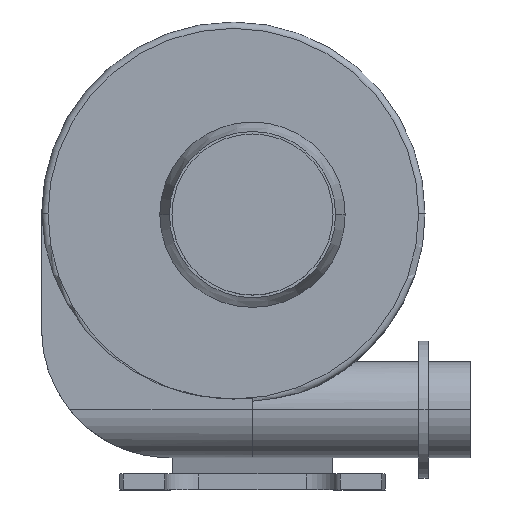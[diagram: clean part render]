
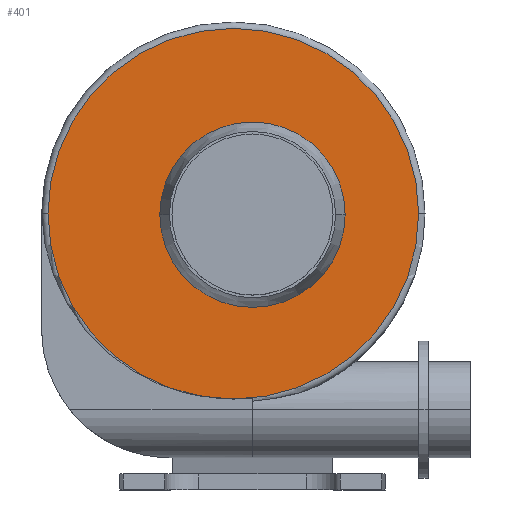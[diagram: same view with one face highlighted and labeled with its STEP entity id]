
A CAD part, top view. The second image highlights one B-rep face of the part: STEP entity #401.
In plain terms, the highlighted planar face has unit normal (0, 0, 1).
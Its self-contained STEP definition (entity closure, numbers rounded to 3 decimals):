
#172 = EDGE_CURVE ( 'NONE', #1209, #2668, #208, .T. ) ;
#184 = DIRECTION ( 'NONE',  ( 0., 0., 1. ) ) ;
#208 = CIRCLE ( 'NONE', #1748, 290.004 ) ;
#241 = DIRECTION ( 'NONE',  ( 0., 0., 1. ) ) ;
#286 = DIRECTION ( 'NONE',  ( 0., 0., 1. ) ) ;
#401 = ADVANCED_FACE ( 'NONE', ( #2529, #776 ), #2768, .T. ) ;
#716 = DIRECTION ( 'NONE',  ( 1., 0., 0. ) ) ;
#719 = DIRECTION ( 'NONE',  ( 0., 0., 1. ) ) ;
#740 = AXIS2_PLACEMENT_3D ( 'NONE', #1675, #286, #1908 ) ;
#776 = FACE_BOUND ( 'NONE', #2923, .T. ) ;
#962 = CARTESIAN_POINT ( 'NONE',  ( -320.004, 1.5, 75. ) ) ;
#1161 = AXIS2_PLACEMENT_3D ( 'NONE', #2097, #719, #2316 ) ;
#1171 = CARTESIAN_POINT ( 'NONE',  ( -30., 1.5, 75. ) ) ;
#1209 = VERTEX_POINT ( 'NONE', #962 ) ;
#1394 = VERTEX_POINT ( 'NONE', #1714 ) ;
#1538 = CARTESIAN_POINT ( 'NONE',  ( 145., 0., 75. ) ) ;
#1594 = CARTESIAN_POINT ( 'NONE',  ( 0., 0., 75. ) ) ;
#1638 = CARTESIAN_POINT ( 'NONE',  ( -30., 1.5, 75. ) ) ;
#1653 = CIRCLE ( 'NONE', #2891, 145. ) ;
#1675 = CARTESIAN_POINT ( 'NONE',  ( 0., 0., 75. ) ) ;
#1714 = CARTESIAN_POINT ( 'NONE',  ( -145., 0., 75. ) ) ;
#1726 = EDGE_CURVE ( 'NONE', #2668, #1209, #2295, .T. ) ;
#1748 = AXIS2_PLACEMENT_3D ( 'NONE', #1638, #241, #1871 ) ;
#1837 = AXIS2_PLACEMENT_3D ( 'NONE', #1171, #2095, #716 ) ;
#1848 = EDGE_LOOP ( 'NONE', ( #2927, #2344 ) ) ;
#1871 = DIRECTION ( 'NONE',  ( 1., 0., 0. ) ) ;
#1908 = DIRECTION ( 'NONE',  ( 1., 0., 0. ) ) ;
#1918 = EDGE_CURVE ( 'NONE', #1394, #2147, #2323, .T. ) ;
#1927 = ORIENTED_EDGE ( 'NONE', *, *, #1918, .F. ) ;
#2095 = DIRECTION ( 'NONE',  ( 0., 0., 1. ) ) ;
#2097 = CARTESIAN_POINT ( 'NONE',  ( -30., 1.5, 75. ) ) ;
#2147 = VERTEX_POINT ( 'NONE', #1538 ) ;
#2295 = CIRCLE ( 'NONE', #1161, 290.004 ) ;
#2316 = DIRECTION ( 'NONE',  ( 1., 0., 0. ) ) ;
#2323 = CIRCLE ( 'NONE', #740, 145. ) ;
#2344 = ORIENTED_EDGE ( 'NONE', *, *, #172, .T. ) ;
#2529 = FACE_OUTER_BOUND ( 'NONE', #1848, .T. ) ;
#2651 = EDGE_CURVE ( 'NONE', #2147, #1394, #1653, .T. ) ;
#2668 = VERTEX_POINT ( 'NONE', #2968 ) ;
#2768 = PLANE ( 'NONE',  #1837 ) ;
#2792 = DIRECTION ( 'NONE',  ( 1., 0., 0. ) ) ;
#2891 = AXIS2_PLACEMENT_3D ( 'NONE', #1594, #184, #2792 ) ;
#2923 = EDGE_LOOP ( 'NONE', ( #1927, #2972 ) ) ;
#2927 = ORIENTED_EDGE ( 'NONE', *, *, #1726, .T. ) ;
#2968 = CARTESIAN_POINT ( 'NONE',  ( 260.004, 1.5, 75. ) ) ;
#2972 = ORIENTED_EDGE ( 'NONE', *, *, #2651, .F. ) ;
